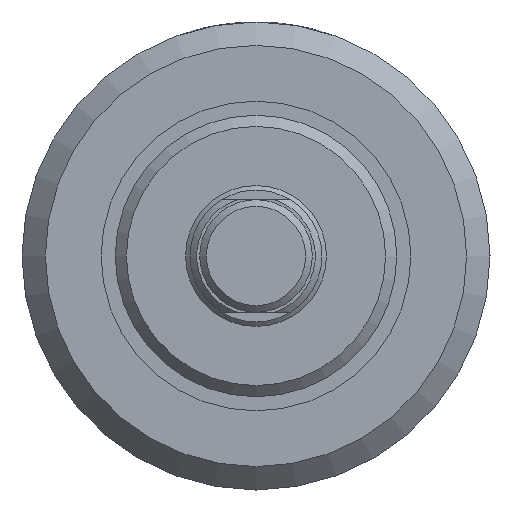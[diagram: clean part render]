
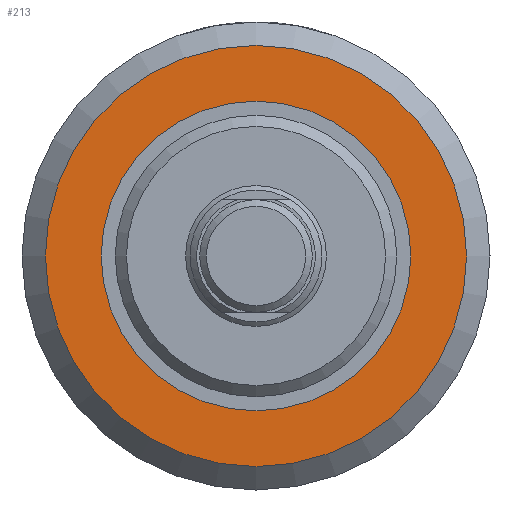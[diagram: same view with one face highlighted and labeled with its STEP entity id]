
A CAD part, left-side view. The second image highlights one B-rep face of the part: STEP entity #213.
In plain terms, the highlighted planar face has unit normal (-1, 0, 0).
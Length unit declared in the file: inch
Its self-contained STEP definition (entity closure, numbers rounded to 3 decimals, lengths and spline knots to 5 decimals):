
#213 = ADVANCED_FACE( '', ( #449, #450 ), #451, .F. );
#449 = FACE_OUTER_BOUND( '', #703, .T. );
#450 = FACE_BOUND( '', #704, .T. );
#451 = PLANE( '', #705 );
#703 = EDGE_LOOP( '', ( #1086 ) );
#704 = EDGE_LOOP( '', ( #1087 ) );
#705 = AXIS2_PLACEMENT_3D( '', #1088, #1089, #1090 );
#1086 = ORIENTED_EDGE( '', *, *, #1361, .F. );
#1087 = ORIENTED_EDGE( '', *, *, #1302, .T. );
#1088 = CARTESIAN_POINT( '', ( 0.813, 0.6875, 0. ) );
#1089 = DIRECTION( '', ( 1., 0., 0. ) );
#1090 = DIRECTION( '', ( 0., 0., -1. ) );
#1302 = EDGE_CURVE( '', #1503, #1503, #1504, .T. );
#1361 = EDGE_CURVE( '', #1588, #1588, #1589, .T. );
#1503 = VERTEX_POINT( '', #1769 );
#1504 = CIRCLE( '', #1770, 0.6875 );
#1588 = VERTEX_POINT( '', #2058 );
#1589 = CIRCLE( '', #2059, 0.9351 );
#1769 = CARTESIAN_POINT( '', ( 0.813, 0., -0.6875 ) );
#1770 = AXIS2_PLACEMENT_3D( '', #2198, #2199, #2200 );
#2058 = CARTESIAN_POINT( '', ( 0.813, 0., -0.9351 ) );
#2059 = AXIS2_PLACEMENT_3D( '', #2272, #2273, #2274 );
#2198 = CARTESIAN_POINT( '', ( 0.813, 0., 0. ) );
#2199 = DIRECTION( '', ( 1., 0., 0. ) );
#2200 = DIRECTION( '', ( 0., 0., -1. ) );
#2272 = CARTESIAN_POINT( '', ( 0.813, 0., 0. ) );
#2273 = DIRECTION( '', ( 1., 0., 0. ) );
#2274 = DIRECTION( '', ( 0., 0., -1. ) );
